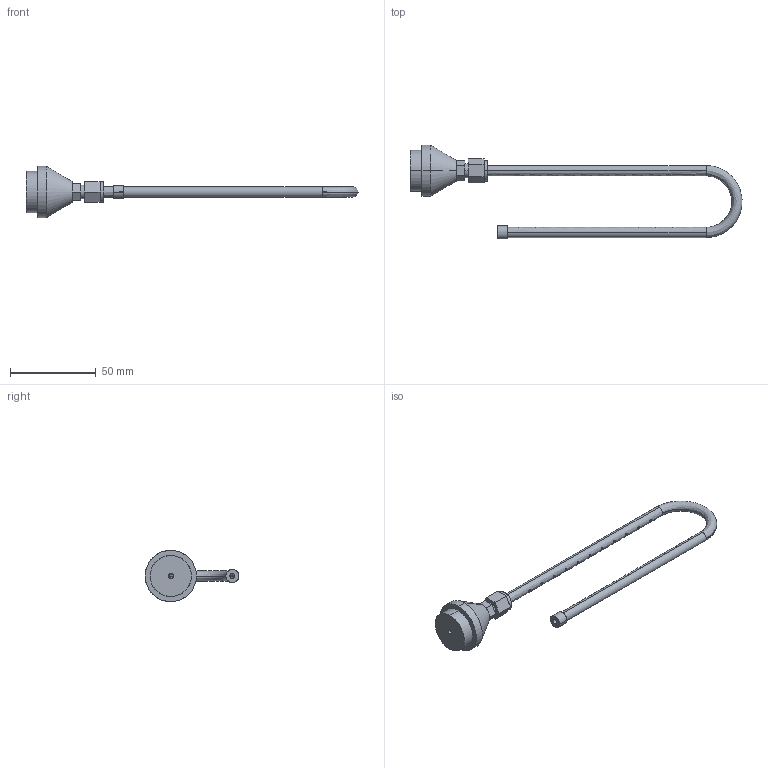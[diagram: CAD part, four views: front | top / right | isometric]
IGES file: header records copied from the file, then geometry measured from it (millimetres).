
Start section: SolidWorks IGES FILE using analytic representation for surfaces
Global section: file name: \\intra-srv04\開発データ\CAD_Data\CAD委員会\3D電子ｶﾀﾛｸﾞ\製品カタログ（新）\0_IGES\ER-AU10.IGS,41HSolidWorks 2004; native system: by SolidWorks Corporation; preprocessor: Version 5.3; author: yk0651; date: 050908.145310; units: millimetre
Bounding box: 193.97 x 54.8 x 30 mm (x, y, z)
Surface area: 13019.7 mm2 (no closed solid volume)
Topology: 0 solids, 0 shells, 94 faces, 2368 edges, 2368 vertices
Faces by surface type: revolution 64, bspline 30
